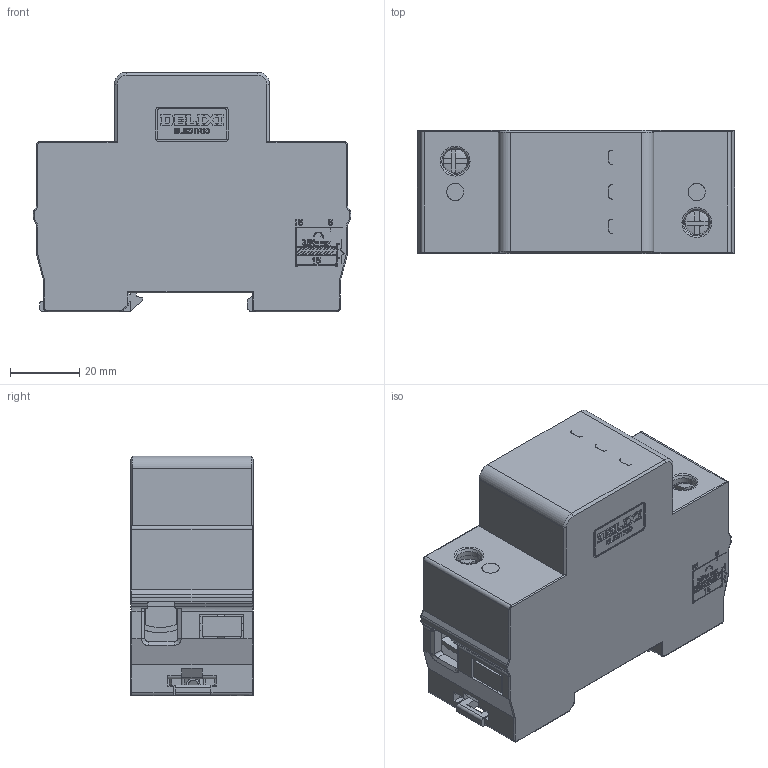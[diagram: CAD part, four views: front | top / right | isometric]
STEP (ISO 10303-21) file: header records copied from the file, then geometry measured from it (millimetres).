
FILE_DESCRIPTION((''),'2;1');
FILE_NAME('2207002700_SW0002','2023-03-16T',('linxiao.guan'),(''),'PRO/ENGINEER BY PARAMETRIC TECHNOLOGY CORPORATION, 2015440','PRO/ENGINEER BY PARAMETRIC TECHNOLOGY CORPORATION, 2015440','');
FILE_SCHEMA(('CONFIG_CONTROL_DESIGN'));
Products named in the file (1): 2207002700_SW0002
Bounding box: 92 x 35.6 x 69.4 mm (x, y, z)
Volume: 57545.9 mm3; surface area: 60956.4 mm2
Topology: 1 solids, 1 shells, 2608 faces, 7402 edges, 4870 vertices
Faces by surface type: plane 2203, cylinder 296, torus 38, cone 37, bspline 26, sphere 8
Entity records: 94523 total; most frequent: CARTESIAN_POINT 26294, ORIENTED_EDGE 14804, DIRECTION 13102, EDGE_CURVE 7402, VECTOR 6496, LINE 6496, VERTEX_POINT 4870, AXIS2_PLACEMENT_3D 3303
